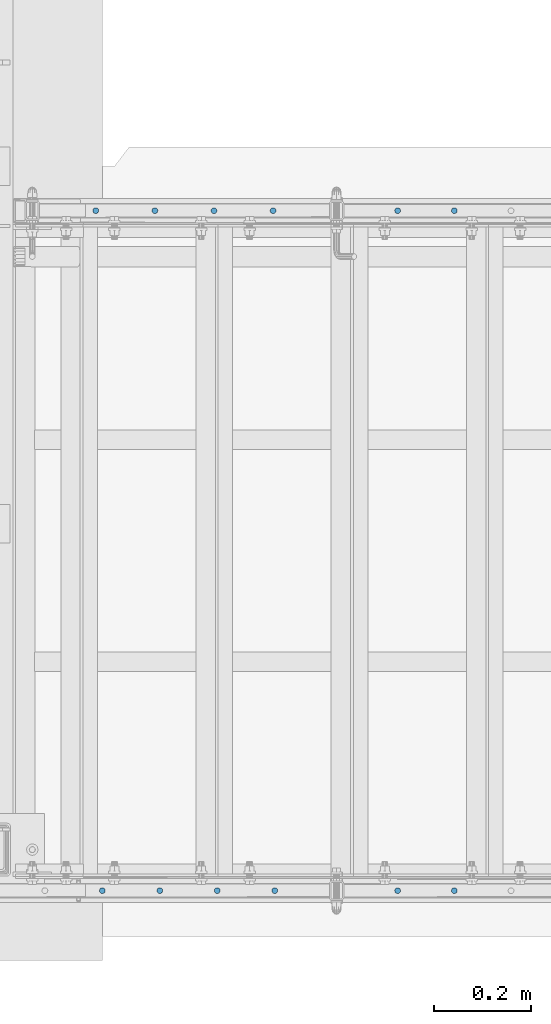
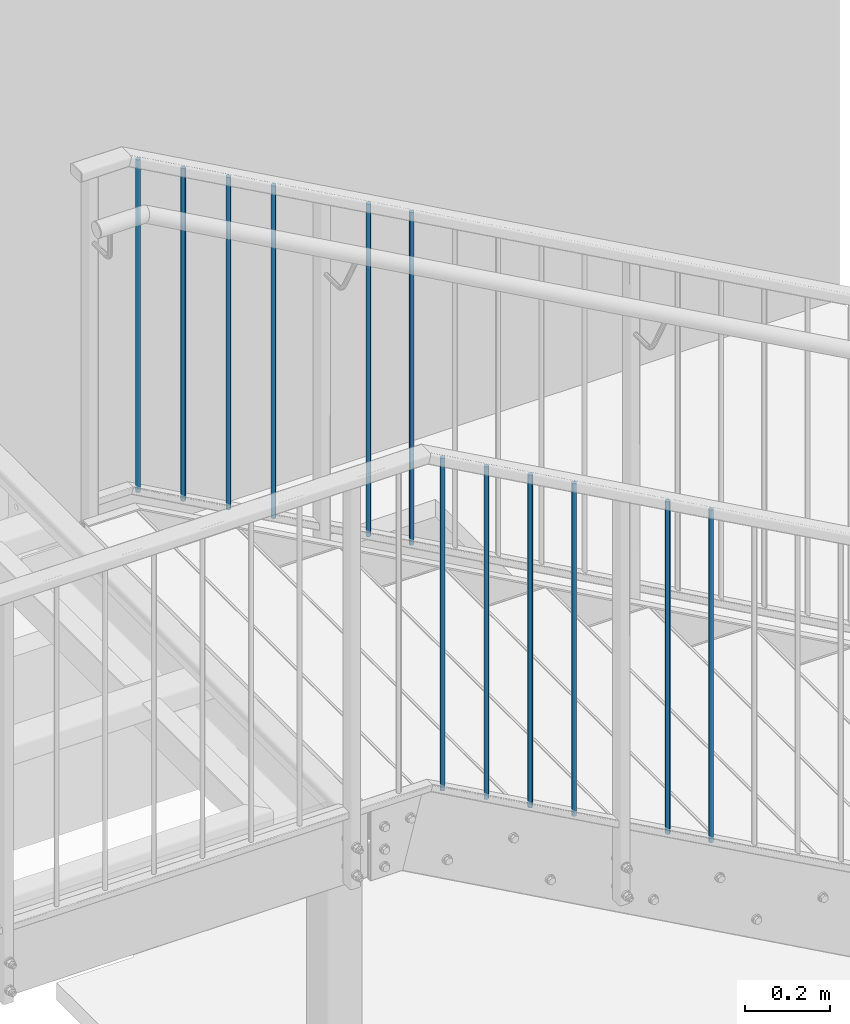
# One storey, part 5 of 116: 12 columns.
"""IFC2X3 building model written with IfcOpenShell, lengths in millimetres."""

import ifcopenshell
import ifcopenshell.guid

model = None  # the IFC model being written
_history = None  # IfcOwnerHistory: only IFC2X3 demands one
_inside = {}  # id of a spatial element -> (the spatial element, [elements in it])
_under = {}  # id of a project, library or spatial element -> (it, [spatial elements below it])
_declared = {}  # id of a project -> (the project, [libraries it declares])
_typed = {}  # id of a type object -> (the type object, [elements of that type])
_made_of = {}  # id of a material, layer set ... -> (it, [elements and type objects made of it])


def new_model(schema):
    """Start an empty IFC model of exactly this schema.

    Asked for "IFC4X3", IfcOpenShell would pick the latest addendum, in which some entities
    have other attributes; the version numbers below select the first issue.
    IFC2X3 requires an IfcOwnerHistory on every rooted entity: one is made here for all.
    """
    global model, _history
    if schema == "IFC4X3":
        model = ifcopenshell.file(schema_version=(4, 3, 0, 0))
    else:
        model = ifcopenshell.file(schema=schema)
    _inside.clear()
    _under.clear()
    _declared.clear()
    _typed.clear()
    _made_of.clear()
    _history = None
    if model.schema == "IFC2X3":
        org = make("IfcOrganization", Name="unknown")
        user = make(
            "IfcPersonAndOrganization",
            ThePerson=make("IfcPerson", FamilyName="unknown"),
            TheOrganization=org,
        )
        app = make(
            "IfcApplication",
            ApplicationDeveloper=org,
            Version="unknown",
            ApplicationFullName="unknown",
            ApplicationIdentifier="unknown",
        )
        _history = make(
            "IfcOwnerHistory",
            OwningUser=user,
            OwningApplication=app,
            ChangeAction="ADDED",
            CreationDate=0,
        )
    return model


def make(cls, **values):
    """One entity of the class cls with the attributes given. An attribute that is None is left unset."""
    return model.create_entity(
        cls, **{name: value for name, value in values.items() if value is not None}
    )


def entity(cls, *values):
    """Any entity or typed value of the class cls, its attributes in the order of the schema. None: left unset."""
    e = model.create_entity(cls)
    for i, value in enumerate(values):
        if value is not None:
            e[i] = value
    return e


def rooted(cls, **values):
    """An entity with a GlobalId (a new one), such as an element, a storey or a relation."""
    return make(cls, GlobalId=ifcopenshell.guid.new(), OwnerHistory=_history, **values)


def si_unit(unit_type, name, prefix=None):
    """IfcSIUnit, for example si_unit("LENGTHUNIT", "METRE", prefix="MILLI")."""
    return make("IfcSIUnit", UnitType=unit_type, Prefix=prefix, Name=name)


def converted_unit(unit_type, name, factor, base, dimensions=None, offset=None):
    """IfcConversionBasedUnit, such as the inch: factor (a typed value) times the base unit."""
    return make(
        "IfcConversionBasedUnit"
        if offset is None
        else "IfcConversionBasedUnitWithOffset",
        ConversionOffset=offset,
        Dimensions=None
        if dimensions is None
        else entity("IfcDimensionalExponents", *dimensions),
        UnitType=unit_type,
        Name=name,
        ConversionFactor=make(
            "IfcMeasureWithUnit", ValueComponent=factor, UnitComponent=base
        ),
    )


def assignment(units):
    """IfcUnitAssignment: the units of a project."""
    return None if units is None else make("IfcUnitAssignment", Units=units)


def point(xyz):
    """IfcCartesianPoint."""
    return None if xyz is None else make("IfcCartesianPoint", Coordinates=xyz)


def direction(xyz):
    """IfcDirection."""
    return None if xyz is None else make("IfcDirection", DirectionRatios=xyz)


def frame(location, z_axis=None, x_axis=None):
    """IfcAxis2Placement3D, a coordinate frame: its origin and axes. An axis left out is left unset."""
    return make(
        "IfcAxis2Placement3D",
        Location=point(location),
        Axis=direction(z_axis),
        RefDirection=direction(x_axis),
    )


def frame_2d(location, x_axis=None):
    """IfcAxis2Placement2D, a coordinate frame in the plane: its origin and x axis."""
    return make(
        "IfcAxis2Placement2D", Location=point(location), RefDirection=direction(x_axis)
    )


def origin():
    """The frame at (0, 0, 0) with its axes left unset."""
    return frame((0.0, 0.0, 0.0))


def origin_with_axes():
    """The frame at (0, 0, 0) with the z axis (0, 0, 1) and the x axis (1, 0, 0) written out."""
    return frame((0.0, 0.0, 0.0), z_axis=(0.0, 0.0, 1.0), x_axis=(1.0, 0.0, 0.0))


def origin_2d():
    """The frame at (0, 0) in the plane with its x axis left unset."""
    return frame_2d((0.0, 0.0))


def place(relative_to, where):
    """IfcLocalPlacement: puts the frame where relative to a parent placement (None: the world)."""
    return make(
        "IfcLocalPlacement", PlacementRelTo=relative_to, RelativePlacement=where
    )


def context(
    kind, dimensions, precision=None, world=None, true_north=None, identifier=None
):
    """IfcGeometricRepresentationContext, for example the 3D "Model" context."""
    return make(
        "IfcGeometricRepresentationContext",
        ContextIdentifier=identifier,
        ContextType=kind,
        CoordinateSpaceDimension=dimensions,
        Precision=precision,
        WorldCoordinateSystem=world,
        TrueNorth=true_north,
    )


def project(units=None, contexts=None):
    """IfcProject with its units and contexts."""
    return rooted(
        "IfcProject",
        Name="project",
        RepresentationContexts=contexts,
        UnitsInContext=assignment(units),
    )


def spatial(cls, under=None, at=None, **own):
    """A site, building, storey or space (cls), placed at a placement, below another one or the project."""
    s = rooted(cls, ObjectPlacement=at, **own)
    if under is not None:
        _under.setdefault(under.id(), (under, []))[1].append(s)
    return s


def profile(cls, at=None, kind="AREA", **sizes):
    """A parametric profile (cls). Its sizes go by their IFC names, for example OverallWidth=200.0."""
    return make(cls, ProfileType=kind, Position=at, **sizes)


def circle(**sizes):
    """IfcCircleProfileDef."""
    return profile("IfcCircleProfileDef", **sizes)


def extrude(swept, where, along, depth):
    """IfcExtrudedAreaSolid: the profile swept, set in the frame where, extruded along a direction by depth."""
    return make(
        "IfcExtrudedAreaSolid",
        SweptArea=swept,
        Position=where,
        ExtrudedDirection=direction(along),
        Depth=depth,
    )


def shape(context_of_items, identifier, shape_type, items):
    """IfcShapeRepresentation: the items that make up one representation, for example the "Body"."""
    return make(
        "IfcShapeRepresentation",
        ContextOfItems=context_of_items,
        RepresentationIdentifier=identifier,
        RepresentationType=shape_type,
        Items=items,
    )


def material(Name=None, Category=None):
    """IfcMaterial."""
    return make("IfcMaterial", Name=Name, Category=Category)


def made_of(thing, what):
    """Note that an element or type object is made of a material, layer set ...; save() writes the relation."""
    if what is not None:
        _made_of.setdefault(what.id(), (what, []))[1].append(thing)
    return thing


def element(
    cls,
    number,
    at=None,
    inside=None,
    cuts=None,
    type_object=None,
    material=None,
    context=None,
    identifier="Body",
    shape_type=None,
    held_by="IfcProductDefinitionShape",
    body=None,
    shapes=None,
    **own,
):
    """One element of the class cls, such as IfcWall. Its Tag is "e" and its number.

    at: its placement. inside: the storey or other place that contains it. cuts: it is an
    opening in that element (IfcRelVoidsElement). A single representation is given by context,
    identifier, shape_type and body (its items); several are given by shapes. held_by: the class
    of the entity that holds the representations. save() writes the other relations.
    """
    e = rooted(cls, Tag="e%d" % number, ObjectPlacement=at, **own)
    if body is not None:
        shapes = [shape(context, identifier, shape_type, body)]
    if shapes is not None:
        e.Representation = make(held_by, Representations=shapes)
    if inside is not None:
        _inside.setdefault(inside.id(), (inside, []))[1].append(e)
    if cuts is not None:
        rooted(
            "IfcRelVoidsElement", RelatingBuildingElement=cuts, RelatedOpeningElement=e
        )
    if type_object is not None:
        _typed.setdefault(type_object.id(), (type_object, []))[1].append(e)
    return made_of(e, material)


def aggregate(whole, parts):
    """IfcRelAggregates: a whole, such as a stair, and the parts it consists of."""
    return rooted("IfcRelAggregates", RelatingObject=whole, RelatedObjects=parts)


def save(model, path):
    """Write the relations noted so far, then the file.

    IfcRelAggregates (storeys below a building ...), IfcRelContainedInSpatialStructure (elements
    in a storey), IfcRelDefinesByType, IfcRelAssociatesMaterial and IfcRelDeclares: one each for
    every whole, place, type object, material and project.
    """
    for whole, parts in _under.values():
        aggregate(whole, parts)
    for where, things in _inside.values():
        rooted(
            "IfcRelContainedInSpatialStructure",
            RelatedElements=things,
            RelatingStructure=where,
        )
    for kind, things in _typed.values():
        rooted("IfcRelDefinesByType", RelatedObjects=things, RelatingType=kind)
    for what, things in _made_of.values():
        rooted("IfcRelAssociatesMaterial", RelatedObjects=things, RelatingMaterial=what)
    for by, libraries in _declared.values():
        rooted("IfcRelDeclares", RelatingContext=by, RelatedDefinitions=libraries)
    model.write(path)


model = new_model("IFC2X3")

# Units and contexts
model_context = context("Model", 3, precision=1e-09, world=origin_with_axes())
ifc_project = project(units=[si_unit("LENGTHUNIT", "METRE", prefix="MILLI"), si_unit("AREAUNIT", "SQUARE_METRE"), si_unit("VOLUMEUNIT", "CUBIC_METRE"), converted_unit("PLANEANGLEUNIT", "DEGREE", entity("IfcPlaneAngleMeasure", 0.01745329), si_unit("PLANEANGLEUNIT", "RADIAN"), dimensions=[0, 0, 0, 0, 0, 0, 0])], contexts=[model_context])

# Site, building, storey
site_placement = place(None, origin_with_axes())
site = spatial("IfcSite", under=ifc_project, at=site_placement, Name="Site", CompositionType="ELEMENT")
building_placement = place(site_placement, origin_with_axes())
building = spatial("IfcBuilding", under=site, at=building_placement, Name="Struktur 1", CompositionType="ELEMENT")
storey_placement = place(building_placement, origin_with_axes())
storey = spatial("IfcBuildingStorey", under=building, at=storey_placement, Name="Default Storey", CompositionType="ELEMENT", Elevation=0.0)

# Columns
ifc_material = material(Name="S235JR")
for number, where, z_axis, x_axis in (
    (1, (58398.449134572, 10455.357883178, 7.105647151), (0.0, 0.0, 1.0), (1.0, 0.0, 0.0)),
    (2, (59023.477706, 10455.357883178, -338.892312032), (0.0, 0.0, 1.0), (1.0, 0.0, 0.0)),
    (3, (59140.906277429, 10455.357883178, -403.897414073), (0.0, 0.0, 1.0), (1.0, 0.0, 0.0)),
    (4, (58520.849134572, 10455.357883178, -60.651495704), (0.0, 0.0, 1.0), (1.0, 0.0, 0.0)),
    (5, (58643.249134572, 10455.357883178, -128.408638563), (0.0, 0.0, 1.0), (1.0, 0.0, 0.0)),
    (6, (58765.649134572, 10455.357883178, -196.165781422), (0.0, 0.0, 1.0), (1.0, 0.0, 0.0)),
    (7, (59140.906277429, 9047.359883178, -403.897414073), (0.0, 0.0, 1.0), (1.0, 0.0, 0.0)),
    (8, (59023.477706, 9047.359883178, -338.892312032), (0.0, 0.0, 1.0), (1.0, 0.0, 0.0)),
    (9, (58769.049134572, 9047.359883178, -198.04792428), (0.0, 0.0, 1.0), (1.0, 0.0, 0.0)),
    (10, (58650.049134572, 9047.359883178, -132.172924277), (0.0, 0.0, 1.0), (1.0, 0.0, 0.0)),
    (11, (58531.049134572, 9047.359883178, -66.297924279), (0.0, 0.0, 1.0), (1.0, 0.0, 0.0)),
    (12, (58412.048650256, 9047.359883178, -0.422656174), (0.0, 0.0, 1.0), (1.0, 0.0, 0.0)),
):
    element("IfcColumn", number, at=place(None, frame(where, z_axis=z_axis, x_axis=x_axis)), inside=storey, material=ifc_material, Name="-", ObjectType="-", context=model_context, shape_type="SweptSolid", body=[
        extrude(circle(Radius=6.0, at=origin_2d()), origin(), (0.0, 0.0, 1.0), 955.0),
    ])

save(model, "model.ifc")
